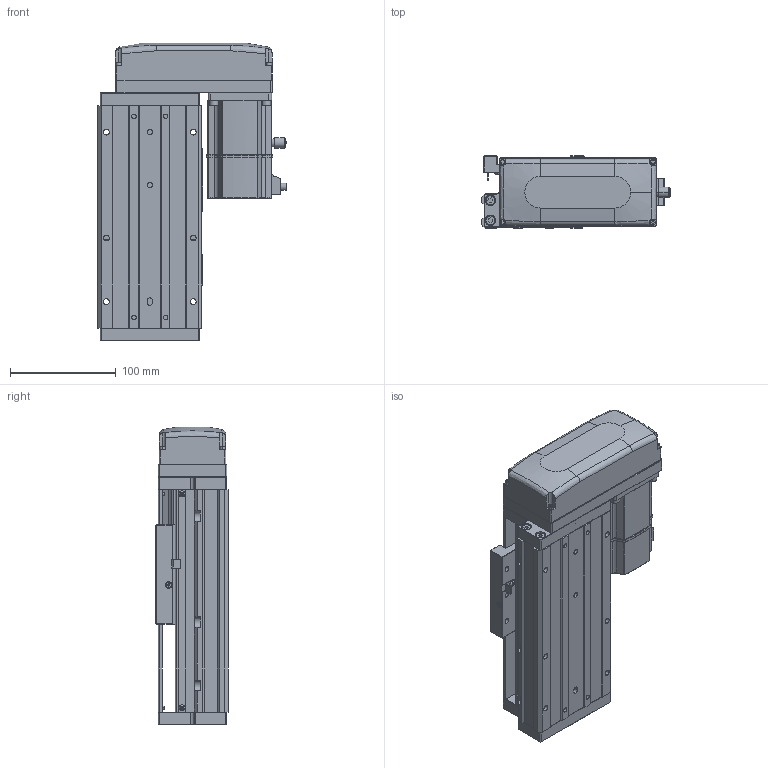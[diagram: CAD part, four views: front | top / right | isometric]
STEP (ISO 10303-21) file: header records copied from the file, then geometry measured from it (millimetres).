
FILE_DESCRIPTION (( 'STEP AP203' ), '1' );
FILE_NAME ('KTHA100-50-BL-M20-C4L.step', '2022-04-26T01:48:55', ( '微软用户' ), ( '微软中国' ), 'SwSTEP 2.0', 'SolidWorks 2020', '' );
FILE_SCHEMA (( 'CONFIG_CONTROL_DESIGN' ));
Length unit declared in the file: millimetre
Products named in the file (17): CTHA60-017; _X2_4E0983F1_X0_200W_1; KTHA100-001_210; CTHA60-021; CTHA86-015-1_CTHA86-015-2; KTHA100-002; GBT77-2000 M3×3; CTHA86-033; KTHA100-004; GBT 70.1-M3℅6; KTHA100-50-BL-M20-C4L; KTHA100-005; GBT70.1 M5℅16; GB¨uT 70.2-M3¡Á5_M3¡Á6; CTHA60-016; EE_SX911P_R; GBT 70.3-M3℅6
Assembly tree (57 placements, depth 2):
  KTHA100-50-BL-M20-C4L
    KTHA100-001_210
    KTHA100-002
    KTHA100-004
    KTHA100-005
    GB¨uT 70.2-M3¡Á5_M3¡Á6  x6
    EE_SX911P_R  x3
    CTHA60-017  x3
    CTHA60-021  x2
    GBT77-2000 M3×3  x6
    GBT 70.1-M3℅6  x10
    GBT70.1 M5℅16  x14
    CTHA60-016  x2
    GBT 70.3-M3℅6  x4
    _X2_4E0983F1_X0_200W_1
    CTHA86-015-1_CTHA86-015-2
    CTHA86-033
Bounding box: 177.7 x 68 x 281 mm (x, y, z)
Volume: 1734001.9 mm3; surface area: 296207.7 mm2
Topology: 60 solids, 60 shells, 2337 faces, 5553 edges, 3436 vertices
Faces by surface type: plane 1184, cylinder 647, cone 299, torus 116, bspline 75, sphere 16
Entity records: 38718 total; most frequent: CARTESIAN_POINT 7888, DIRECTION 5942, ORIENTED_EDGE 5718, EDGE_CURVE 2859, AXIS2_PLACEMENT_3D 2098, VERTEX_POINT 1796, VECTOR 1746, LINE 1746
